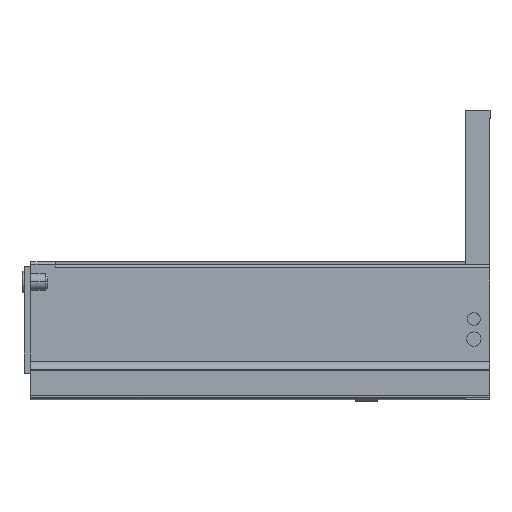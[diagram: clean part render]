
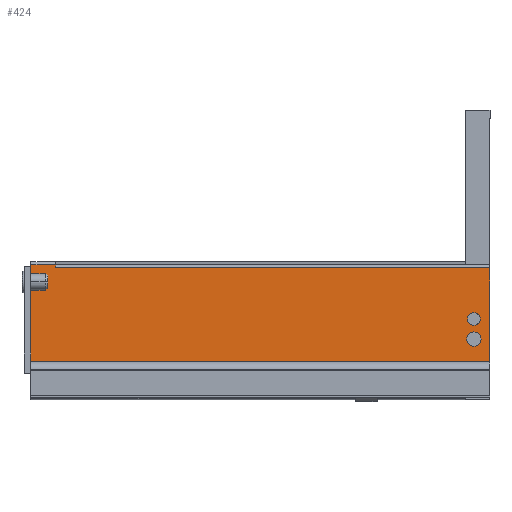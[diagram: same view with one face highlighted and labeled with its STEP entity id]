
A CAD part, left-side view. The second image highlights one B-rep face of the part: STEP entity #424.
In plain terms, the highlighted planar face has unit normal (-1, 0, 0).
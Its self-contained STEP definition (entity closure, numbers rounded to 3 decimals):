
#76 = EDGE_CURVE ( 'NONE', #726, #835, #2104, .T. ) ;
#124 = EDGE_CURVE ( 'NONE', #758, #835, #1765, .T. ) ;
#222 = EDGE_CURVE ( 'NONE', #849, #705, #1934, .T. ) ;
#226 = EDGE_CURVE ( 'NONE', #787, #735, #1940, .T. ) ;
#229 = EDGE_CURVE ( 'NONE', #740, #738, #1944, .T. ) ;
#230 = EDGE_CURVE ( 'NONE', #740, #758, #1946, .T. ) ;
#231 = EDGE_CURVE ( 'NONE', #737, #726, #1948, .T. ) ;
#232 = EDGE_CURVE ( 'NONE', #737, #738, #1950, .T. ) ;
#233 = EDGE_CURVE ( 'NONE', #705, #849, #1952, .T. ) ;
#234 = EDGE_CURVE ( 'NONE', #735, #787, #1954, .T. ) ;
#290 = AXIS2_PLACEMENT_3D ( 'NONE', #1299, #1298, #1297 ) ;
#292 = AXIS2_PLACEMENT_3D ( 'NONE', #1289, #1288, #1287 ) ;
#293 = AXIS2_PLACEMENT_3D ( 'NONE', #1274, #1273, #1272 ) ;
#294 = AXIS2_PLACEMENT_3D ( 'NONE', #1271, #1270, #1269 ) ;
#329 = AXIS2_PLACEMENT_3D ( 'NONE', #1142, #1141, #1140 ) ;
#424 = ADVANCED_FACE ( 'NONE', ( #2003, #2004, #2005 ), #1143, .T. ) ;
#480 = CARTESIAN_POINT ( 'NONE',  ( -21.5, 0., 5.395 ) ) ;
#501 = CARTESIAN_POINT ( 'NONE',  ( -21.5, 10.4, 24.6 ) ) ;
#705 = VERTEX_POINT ( 'NONE', #924 ) ;
#726 = VERTEX_POINT ( 'NONE', #903 ) ;
#735 = VERTEX_POINT ( 'NONE', #894 ) ;
#737 = VERTEX_POINT ( 'NONE', #892 ) ;
#738 = VERTEX_POINT ( 'NONE', #891 ) ;
#740 = VERTEX_POINT ( 'NONE', #889 ) ;
#758 = VERTEX_POINT ( 'NONE', #871 ) ;
#787 = VERTEX_POINT ( 'NONE', #1669 ) ;
#835 = VERTEX_POINT ( 'NONE', #480 ) ;
#849 = VERTEX_POINT ( 'NONE', #501 ) ;
#871 = CARTESIAN_POINT ( 'NONE',  ( -21.5, 0., 66.06 ) ) ;
#889 = CARTESIAN_POINT ( 'NONE',  ( -21.5, 280.9, 66.06 ) ) ;
#891 = CARTESIAN_POINT ( 'NONE',  ( -21.5, 280.9, 68. ) ) ;
#892 = CARTESIAN_POINT ( 'NONE',  ( -21.5, 297., 68. ) ) ;
#894 = CARTESIAN_POINT ( 'NONE',  ( -21.5, 10.4, 28.9 ) ) ;
#903 = CARTESIAN_POINT ( 'NONE',  ( -21.5, 297., 5.395 ) ) ;
#924 = CARTESIAN_POINT ( 'NONE',  ( -21.5, 10.4, 15.4 ) ) ;
#1140 = DIRECTION ( 'NONE',  ( 0., 0., -1. ) ) ;
#1141 = DIRECTION ( 'NONE',  ( -1., 0., 0. ) ) ;
#1142 = CARTESIAN_POINT ( 'NONE',  ( -21.5, 297., 68. ) ) ;
#1143 = PLANE ( 'NONE',  #329 ) ;
#1269 = DIRECTION ( 'NONE',  ( 0., 0., -1. ) ) ;
#1270 = DIRECTION ( 'NONE',  ( 1., 0., 0. ) ) ;
#1271 = CARTESIAN_POINT ( 'NONE',  ( -21.5, 10.4, 33. ) ) ;
#1272 = DIRECTION ( 'NONE',  ( 0., 0., -1. ) ) ;
#1273 = DIRECTION ( 'NONE',  ( 1., 0., 0. ) ) ;
#1274 = CARTESIAN_POINT ( 'NONE',  ( -21.5, 10.4, 20. ) ) ;
#1275 = DIRECTION ( 'NONE',  ( 0., -1., 0. ) ) ;
#1276 = CARTESIAN_POINT ( 'NONE',  ( -21.5, 297., 68. ) ) ;
#1277 = DIRECTION ( 'NONE',  ( 0., 0., -1. ) ) ;
#1278 = CARTESIAN_POINT ( 'NONE',  ( -21.5, 297., 5.395 ) ) ;
#1279 = DIRECTION ( 'NONE',  ( 0., -1., 0. ) ) ;
#1280 = CARTESIAN_POINT ( 'NONE',  ( -21.5, 312.981, 66.06 ) ) ;
#1281 = DIRECTION ( 'NONE',  ( 0., 0., 1. ) ) ;
#1282 = CARTESIAN_POINT ( 'NONE',  ( -21.5, 280.9, 68. ) ) ;
#1287 = DIRECTION ( 'NONE',  ( 0., 0., -1. ) ) ;
#1288 = DIRECTION ( 'NONE',  ( 1., 0., 0. ) ) ;
#1289 = CARTESIAN_POINT ( 'NONE',  ( -21.5, 10.4, 33. ) ) ;
#1297 = DIRECTION ( 'NONE',  ( 0., 0., -1. ) ) ;
#1298 = DIRECTION ( 'NONE',  ( 1., 0., 0. ) ) ;
#1299 = CARTESIAN_POINT ( 'NONE',  ( -21.5, 10.4, 20. ) ) ;
#1523 = DIRECTION ( 'NONE',  ( 0., 0., -1. ) ) ;
#1524 = CARTESIAN_POINT ( 'NONE',  ( -21.5, 0., 68. ) ) ;
#1624 = DIRECTION ( 'NONE',  ( 0., -1., 0. ) ) ;
#1625 = CARTESIAN_POINT ( 'NONE',  ( -21.5, 297., 5.395 ) ) ;
#1669 = CARTESIAN_POINT ( 'NONE',  ( -21.5, 10.4, 37.1 ) ) ;
#1765 = LINE ( 'NONE', #1524, #1767 ) ;
#1767 = VECTOR ( 'NONE', #1523, 1000. ) ;
#1934 = CIRCLE ( 'NONE', #290, 4.6 ) ;
#1940 = CIRCLE ( 'NONE', #292, 4.1 ) ;
#1944 = LINE ( 'NONE', #1282, #1945 ) ;
#1945 = VECTOR ( 'NONE', #1281, 1000. ) ;
#1946 = LINE ( 'NONE', #1280, #1947 ) ;
#1947 = VECTOR ( 'NONE', #1279, 1000. ) ;
#1948 = LINE ( 'NONE', #1278, #1949 ) ;
#1949 = VECTOR ( 'NONE', #1277, 1000. ) ;
#1950 = LINE ( 'NONE', #1276, #1951 ) ;
#1951 = VECTOR ( 'NONE', #1275, 1000. ) ;
#1952 = CIRCLE ( 'NONE', #293, 4.6 ) ;
#1954 = CIRCLE ( 'NONE', #294, 4.1 ) ;
#2003 = FACE_OUTER_BOUND ( 'NONE', #2304, .T. ) ;
#2004 = FACE_BOUND ( 'NONE', #2278, .T. ) ;
#2005 = FACE_BOUND ( 'NONE', #2303, .T. ) ;
#2102 = VECTOR ( 'NONE', #1624, 1000. ) ;
#2104 = LINE ( 'NONE', #1625, #2102 ) ;
#2278 = EDGE_LOOP ( 'NONE', ( #2670, #2669 ) ) ;
#2303 = EDGE_LOOP ( 'NONE', ( #2668, #2667 ) ) ;
#2304 = EDGE_LOOP ( 'NONE', ( #2676, #2675, #2674, #2673, #2672, #2671 ) ) ;
#2667 = ORIENTED_EDGE ( 'NONE', *, *, #222, .T. ) ;
#2668 = ORIENTED_EDGE ( 'NONE', *, *, #233, .T. ) ;
#2669 = ORIENTED_EDGE ( 'NONE', *, *, #226, .T. ) ;
#2670 = ORIENTED_EDGE ( 'NONE', *, *, #234, .T. ) ;
#2671 = ORIENTED_EDGE ( 'NONE', *, *, #229, .T. ) ;
#2672 = ORIENTED_EDGE ( 'NONE', *, *, #230, .F. ) ;
#2673 = ORIENTED_EDGE ( 'NONE', *, *, #124, .F. ) ;
#2674 = ORIENTED_EDGE ( 'NONE', *, *, #76, .T. ) ;
#2675 = ORIENTED_EDGE ( 'NONE', *, *, #231, .T. ) ;
#2676 = ORIENTED_EDGE ( 'NONE', *, *, #232, .F. ) ;
